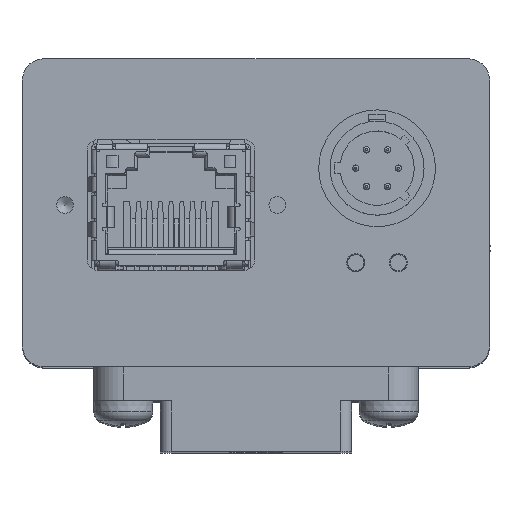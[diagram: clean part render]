
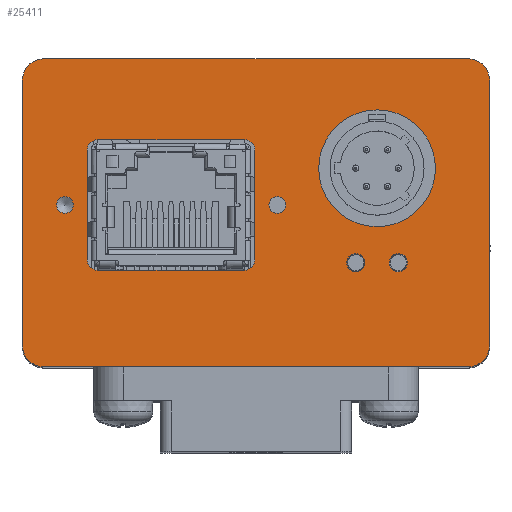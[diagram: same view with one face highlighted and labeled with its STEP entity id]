
A CAD part, top view. The second image highlights one B-rep face of the part: STEP entity #25411.
In plain terms, the highlighted planar face has unit normal (0, 0, 1).
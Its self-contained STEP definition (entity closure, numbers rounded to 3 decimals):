
#589=FACE_BOUND('',#4257,.T.);
#590=FACE_BOUND('',#4258,.T.);
#591=FACE_BOUND('',#4259,.T.);
#592=FACE_BOUND('',#4260,.T.);
#593=FACE_BOUND('',#4261,.T.);
#594=FACE_BOUND('',#4262,.T.);
#1691=PLANE('',#27700);
#2822=FACE_OUTER_BOUND('',#4256,.T.);
#4256=EDGE_LOOP('',(#21333,#21334,#21335,#21336,#21337,#21338,#21339,#21340));
#4257=EDGE_LOOP('',(#21341));
#4258=EDGE_LOOP('',(#21342));
#4259=EDGE_LOOP('',(#21343));
#4260=EDGE_LOOP('',(#21344));
#4261=EDGE_LOOP('',(#21345));
#4262=EDGE_LOOP('',(#21346,#21347,#21348,#21349,#21350,#21351,#21352,#21353));
#5856=LINE('',#42393,#8036);
#6456=LINE('',#45744,#8636);
#6459=LINE('',#45754,#8639);
#6463=LINE('',#45770,#8643);
#6464=LINE('',#45780,#8644);
#6465=LINE('',#45793,#8645);
#6466=LINE('',#45797,#8646);
#6467=LINE('',#45799,#8647);
#8036=VECTOR('',#31336,10.);
#8636=VECTOR('',#33634,10.);
#8639=VECTOR('',#33643,10.);
#8643=VECTOR('',#33661,10.);
#8644=VECTOR('',#33674,10.);
#8645=VECTOR('',#33685,10.);
#8646=VECTOR('',#33688,10.);
#8647=VECTOR('',#33691,10.);
#9214=CIRCLE('',#26835,1.);
#9328=CIRCLE('',#27077,5.5);
#9650=CIRCLE('',#27692,2.);
#9651=CIRCLE('',#27694,2.);
#9654=CIRCLE('',#27699,2.);
#9655=CIRCLE('',#27701,2.);
#9656=CIRCLE('',#27702,0.85);
#9657=CIRCLE('',#27703,0.85);
#9658=CIRCLE('',#27704,0.784);
#9659=CIRCLE('',#27705,0.784);
#9660=CIRCLE('',#27706,1.);
#9661=CIRCLE('',#27707,1.);
#9662=CIRCLE('',#27708,1.);
#11015=VERTEX_POINT('',#42383);
#11016=VERTEX_POINT('',#42385);
#11018=VERTEX_POINT('',#42392);
#11241=VERTEX_POINT('',#43384);
#11809=VERTEX_POINT('',#45740);
#11810=VERTEX_POINT('',#45742);
#11813=VERTEX_POINT('',#45750);
#11814=VERTEX_POINT('',#45752);
#11817=VERTEX_POINT('',#45760);
#11818=VERTEX_POINT('',#45764);
#11819=VERTEX_POINT('',#45768);
#11822=VERTEX_POINT('',#45778);
#11823=VERTEX_POINT('',#45781);
#11824=VERTEX_POINT('',#45783);
#11825=VERTEX_POINT('',#45785);
#11826=VERTEX_POINT('',#45787);
#11827=VERTEX_POINT('',#45789);
#11828=VERTEX_POINT('',#45790);
#11829=VERTEX_POINT('',#45792);
#11830=VERTEX_POINT('',#45794);
#11831=VERTEX_POINT('',#45796);
#13939=EDGE_CURVE('',#11016,#11015,#9214,.T.);
#13943=EDGE_CURVE('',#11018,#11016,#5856,.T.);
#14274=EDGE_CURVE('',#11241,#11241,#9328,.T.);
#15096=EDGE_CURVE('',#11809,#11810,#6456,.T.);
#15101=EDGE_CURVE('',#11813,#11814,#6459,.T.);
#15104=EDGE_CURVE('',#11817,#11814,#9650,.T.);
#15106=EDGE_CURVE('',#11813,#11818,#9651,.T.);
#15109=EDGE_CURVE('',#11819,#11818,#6463,.T.);
#15112=EDGE_CURVE('',#11819,#11810,#9654,.T.);
#15113=EDGE_CURVE('',#11809,#11822,#9655,.T.);
#15114=EDGE_CURVE('',#11817,#11822,#6464,.T.);
#15115=EDGE_CURVE('',#11823,#11823,#9656,.T.);
#15116=EDGE_CURVE('',#11824,#11824,#9657,.T.);
#15117=EDGE_CURVE('',#11825,#11825,#9658,.T.);
#15118=EDGE_CURVE('',#11826,#11826,#9659,.T.);
#15119=EDGE_CURVE('',#11827,#11828,#9660,.T.);
#15120=EDGE_CURVE('',#11828,#11829,#6465,.T.);
#15121=EDGE_CURVE('',#11829,#11830,#9661,.T.);
#15122=EDGE_CURVE('',#11830,#11831,#6466,.T.);
#15123=EDGE_CURVE('',#11831,#11018,#9662,.T.);
#15124=EDGE_CURVE('',#11015,#11827,#6467,.T.);
#21333=ORIENTED_EDGE('',*,*,#15113,.F.);
#21334=ORIENTED_EDGE('',*,*,#15096,.T.);
#21335=ORIENTED_EDGE('',*,*,#15112,.F.);
#21336=ORIENTED_EDGE('',*,*,#15109,.T.);
#21337=ORIENTED_EDGE('',*,*,#15106,.F.);
#21338=ORIENTED_EDGE('',*,*,#15101,.T.);
#21339=ORIENTED_EDGE('',*,*,#15104,.F.);
#21340=ORIENTED_EDGE('',*,*,#15114,.T.);
#21341=ORIENTED_EDGE('',*,*,#14274,.T.);
#21342=ORIENTED_EDGE('',*,*,#15115,.T.);
#21343=ORIENTED_EDGE('',*,*,#15116,.T.);
#21344=ORIENTED_EDGE('',*,*,#15117,.T.);
#21345=ORIENTED_EDGE('',*,*,#15118,.T.);
#21346=ORIENTED_EDGE('',*,*,#15119,.T.);
#21347=ORIENTED_EDGE('',*,*,#15120,.T.);
#21348=ORIENTED_EDGE('',*,*,#15121,.T.);
#21349=ORIENTED_EDGE('',*,*,#15122,.T.);
#21350=ORIENTED_EDGE('',*,*,#15123,.T.);
#21351=ORIENTED_EDGE('',*,*,#13943,.T.);
#21352=ORIENTED_EDGE('',*,*,#13939,.T.);
#21353=ORIENTED_EDGE('',*,*,#15124,.T.);
#25411=ADVANCED_FACE('',(#2822,#589,#590,#591,#592,#593,#594),#1691,.T.);
#26835=AXIS2_PLACEMENT_3D('',#42386,#31329,#31330);
#27077=AXIS2_PLACEMENT_3D('',#43386,#32016,#32017);
#27692=AXIS2_PLACEMENT_3D('',#45761,#33650,#33651);
#27694=AXIS2_PLACEMENT_3D('',#45765,#33655,#33656);
#27699=AXIS2_PLACEMENT_3D('',#45776,#33668,#33669);
#27700=AXIS2_PLACEMENT_3D('',#45777,#33670,#33671);
#27701=AXIS2_PLACEMENT_3D('',#45779,#33672,#33673);
#27702=AXIS2_PLACEMENT_3D('',#45782,#33675,#33676);
#27703=AXIS2_PLACEMENT_3D('',#45784,#33677,#33678);
#27704=AXIS2_PLACEMENT_3D('',#45786,#33679,#33680);
#27705=AXIS2_PLACEMENT_3D('',#45788,#33681,#33682);
#27706=AXIS2_PLACEMENT_3D('',#45791,#33683,#33684);
#27707=AXIS2_PLACEMENT_3D('',#45795,#33686,#33687);
#27708=AXIS2_PLACEMENT_3D('',#45798,#33689,#33690);
#31329=DIRECTION('center_axis',(0.,0.,-1.));
#31330=DIRECTION('ref_axis',(1.,0.,0.));
#31336=DIRECTION('',(1.,0.,0.));
#32016=DIRECTION('center_axis',(0.,0.,-1.));
#32017=DIRECTION('ref_axis',(-1.,0.,0.));
#33634=DIRECTION('',(0.,-1.,0.));
#33643=DIRECTION('',(0.,1.,0.));
#33650=DIRECTION('center_axis',(0.,0.,-1.));
#33651=DIRECTION('ref_axis',(0.707,0.707,0.));
#33655=DIRECTION('center_axis',(0.,0.,-1.));
#33656=DIRECTION('ref_axis',(0.707,-0.707,0.));
#33661=DIRECTION('',(1.,0.,0.));
#33668=DIRECTION('center_axis',(0.,0.,-1.));
#33669=DIRECTION('ref_axis',(-0.707,-0.707,0.));
#33670=DIRECTION('center_axis',(0.,0.,1.));
#33671=DIRECTION('ref_axis',(1.,0.,0.));
#33672=DIRECTION('center_axis',(0.,0.,-1.));
#33673=DIRECTION('ref_axis',(-0.707,0.707,0.));
#33674=DIRECTION('',(-1.,0.,0.));
#33675=DIRECTION('center_axis',(0.,0.,-1.));
#33676=DIRECTION('ref_axis',(1.,0.,0.));
#33677=DIRECTION('center_axis',(0.,0.,-1.));
#33678=DIRECTION('ref_axis',(1.,0.,0.));
#33679=DIRECTION('center_axis',(0.,0.,-1.));
#33680=DIRECTION('ref_axis',(1.,0.,0.));
#33681=DIRECTION('center_axis',(0.,0.,-1.));
#33682=DIRECTION('ref_axis',(1.,0.,0.));
#33683=DIRECTION('center_axis',(0.,0.,-1.));
#33684=DIRECTION('ref_axis',(0.,-1.,0.));
#33685=DIRECTION('',(-1.,0.,0.));
#33686=DIRECTION('center_axis',(0.,0.,-1.));
#33687=DIRECTION('ref_axis',(-1.,0.,0.));
#33688=DIRECTION('',(0.,1.,0.));
#33689=DIRECTION('center_axis',(0.,0.,-1.));
#33690=DIRECTION('ref_axis',(0.,1.,0.));
#33691=DIRECTION('',(0.,-1.,0.));
#42383=CARTESIAN_POINT('',(-0.1,5.9,73.));
#42385=CARTESIAN_POINT('',(-1.1,6.9,73.));
#42386=CARTESIAN_POINT('Origin',(-1.1,5.9,73.));
#42392=CARTESIAN_POINT('',(-14.9,6.9,73.));
#42393=CARTESIAN_POINT('',(-7.45,6.9,73.));
#43384=CARTESIAN_POINT('',(16.9,4.2,73.));
#43386=CARTESIAN_POINT('Origin',(11.4,4.2,73.));
#45740=CARTESIAN_POINT('',(-22.,12.5,73.));
#45742=CARTESIAN_POINT('',(-22.,-12.5,73.));
#45744=CARTESIAN_POINT('',(-22.,-14.5,73.));
#45750=CARTESIAN_POINT('',(22.,-12.5,73.));
#45752=CARTESIAN_POINT('',(22.,12.5,73.));
#45754=CARTESIAN_POINT('',(22.,14.5,73.));
#45760=CARTESIAN_POINT('',(20.,14.5,73.));
#45761=CARTESIAN_POINT('Origin',(20.,12.5,73.));
#45764=CARTESIAN_POINT('',(20.,-14.5,73.));
#45765=CARTESIAN_POINT('Origin',(20.,-12.5,73.));
#45768=CARTESIAN_POINT('',(-20.,-14.5,73.));
#45770=CARTESIAN_POINT('',(22.,-14.5,73.));
#45776=CARTESIAN_POINT('Origin',(-20.,-12.5,73.));
#45777=CARTESIAN_POINT('Origin',(0.,0.,
73.));
#45778=CARTESIAN_POINT('',(-20.,14.5,73.));
#45779=CARTESIAN_POINT('Origin',(-20.,12.5,73.));
#45780=CARTESIAN_POINT('',(-22.,14.5,73.));
#45781=CARTESIAN_POINT('',(8.55,-4.7,73.));
#45782=CARTESIAN_POINT('Origin',(9.4,-4.7,73.));
#45783=CARTESIAN_POINT('',(12.55,-4.7,73.));
#45784=CARTESIAN_POINT('Origin',(13.4,-4.7,73.));
#45785=CARTESIAN_POINT('',(-18.784,0.75,73.));
#45786=CARTESIAN_POINT('Origin',(-18.,0.75,73.));
#45787=CARTESIAN_POINT('',(1.216,0.75,73.));
#45788=CARTESIAN_POINT('Origin',(2.,0.75,73.));
#45789=CARTESIAN_POINT('',(-0.1,-4.4,73.));
#45790=CARTESIAN_POINT('',(-1.1,-5.4,73.));
#45791=CARTESIAN_POINT('Origin',(-1.1,-4.4,73.));
#45792=CARTESIAN_POINT('',(-14.9,-5.4,73.));
#45793=CARTESIAN_POINT('',(-0.55,-5.4,73.));
#45794=CARTESIAN_POINT('',(-15.9,-4.4,73.));
#45795=CARTESIAN_POINT('Origin',(-14.9,-4.4,73.));
#45796=CARTESIAN_POINT('',(-15.9,5.9,73.));
#45797=CARTESIAN_POINT('',(-15.9,-2.2,73.));
#45798=CARTESIAN_POINT('Origin',(-14.9,5.9,73.));
#45799=CARTESIAN_POINT('',(-0.1,2.95,73.));
